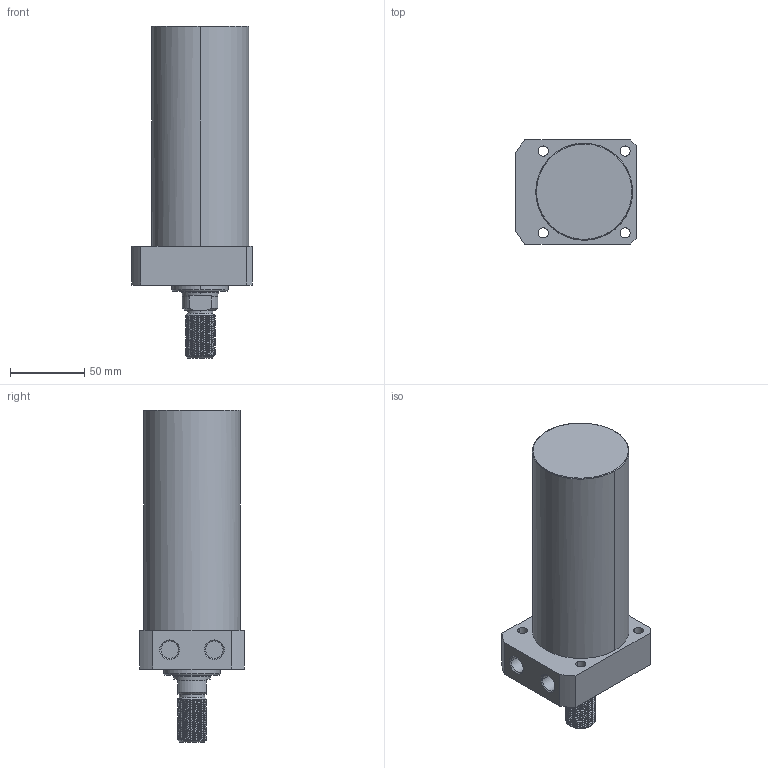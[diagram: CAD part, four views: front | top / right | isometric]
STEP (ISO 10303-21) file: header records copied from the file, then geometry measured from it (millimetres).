
FILE_DESCRIPTION((' '),'2;1');
FILE_NAME( 'TLLR-065CT-115.STEP.stp', '2025-10-24T16:35:00', (' '), ('--- Datakit www.datakit.com---'), ' Datakit CrossCadWare V2024.1 Dec 21 2023', 'Mastercam 2025', ' ');
FILE_SCHEMA(('AUTOMOTIVE_DESIGN { 1 0 10303 214 1 1 1 1 }'));
Length unit declared in the file: millimetre
Products named in the file (1): TLLR-065CT-115
Bounding box: 81 x 70 x 223 mm (x, y, z)
Volume: 647665.5 mm3; surface area: 56734.3 mm2
Topology: 1 solids, 1 shells, 105 faces, 378 edges, 283 vertices
Faces by surface type: cylinder 66, plane 20, cone 15, bspline 2, torus 2
Entity records: 12220 total; most frequent: CARTESIAN_POINT 8994, ORIENTED_EDGE 756, DIRECTION 528, EDGE_CURVE 378, VERTEX_POINT 283, AXIS2_PLACEMENT_3D 213, B_SPLINE_CURVE_WITH_KNOTS 167, EDGE_LOOP 121
